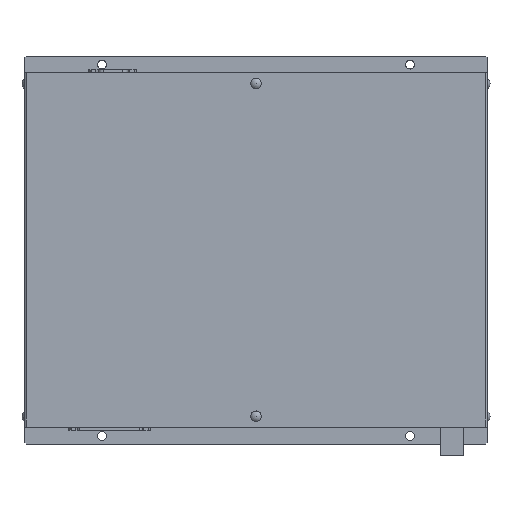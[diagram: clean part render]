
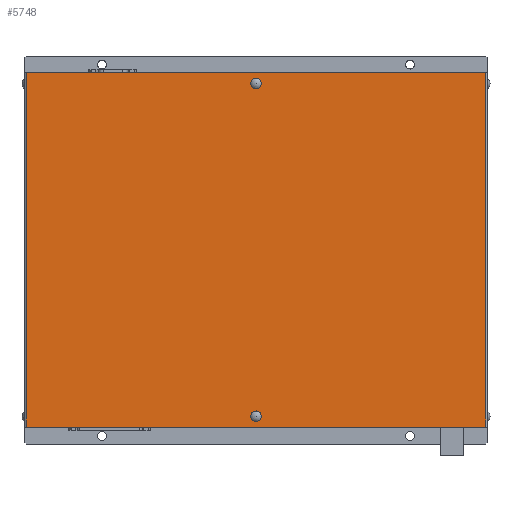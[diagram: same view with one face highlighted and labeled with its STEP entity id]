
A CAD part, top view. The second image highlights one B-rep face of the part: STEP entity #5748.
In plain terms, the highlighted planar face has unit normal (0, 0, 1).
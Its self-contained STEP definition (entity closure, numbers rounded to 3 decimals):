
#476=LINE('',#9172,#1086);
#480=LINE('',#9181,#1090);
#488=LINE('',#9200,#1098);
#496=LINE('',#9215,#1106);
#1086=VECTOR('',#7554,229.99);
#1090=VECTOR('',#7562,297.98);
#1098=VECTOR('',#7576,229.99);
#1106=VECTOR('',#7588,297.98);
#1534=PLANE('',#6240);
#1651=FACE_BOUND('',#2393,.T.);
#1652=FACE_BOUND('',#2394,.T.);
#1966=FACE_OUTER_BOUND('',#2392,.T.);
#2392=EDGE_LOOP('',(#5255,#5256,#5257,#5258));
#2393=EDGE_LOOP('',(#5259));
#2394=EDGE_LOOP('',(#5260));
#2470=CIRCLE('',#5856,3.45);
#2480=CIRCLE('',#5876,3.45);
#2630=VERTEX_POINT('',#7990);
#2640=VERTEX_POINT('',#8020);
#3015=VERTEX_POINT('',#9165);
#3018=VERTEX_POINT('',#9170);
#3021=VERTEX_POINT('',#9180);
#3028=VERTEX_POINT('',#9196);
#3162=EDGE_CURVE('',#2630,#2630,#2470,.T.);
#3172=EDGE_CURVE('',#2640,#2640,#2480,.T.);
#3726=EDGE_CURVE('',#3018,#3015,#476,.T.);
#3730=EDGE_CURVE('',#3015,#3021,#480,.T.);
#3740=EDGE_CURVE('',#3021,#3028,#488,.T.);
#3748=EDGE_CURVE('',#3018,#3028,#496,.T.);
#5255=ORIENTED_EDGE('',*,*,#3726,.F.);
#5256=ORIENTED_EDGE('',*,*,#3748,.T.);
#5257=ORIENTED_EDGE('',*,*,#3740,.F.);
#5258=ORIENTED_EDGE('',*,*,#3730,.F.);
#5259=ORIENTED_EDGE('',*,*,#3162,.T.);
#5260=ORIENTED_EDGE('',*,*,#3172,.T.);
#5748=ADVANCED_FACE('',(#1966,#1651,#1652),#1534,.T.);
#5856=AXIS2_PLACEMENT_3D('',#7991,#6429,#6430);
#5876=AXIS2_PLACEMENT_3D('',#8021,#6469,#6470);
#6240=AXIS2_PLACEMENT_3D('',#9425,#7769,#7770);
#6429=DIRECTION('center_axis',(0.,0.,-1.));
#6430=DIRECTION('ref_axis',(1.,0.,0.));
#6469=DIRECTION('center_axis',(0.,0.,-1.));
#6470=DIRECTION('ref_axis',(1.,0.,0.));
#7554=DIRECTION('',(0.,1.,0.));
#7562=DIRECTION('',(1.,0.,0.));
#7576=DIRECTION('',(0.,-1.,0.));
#7588=DIRECTION('',(1.,0.,0.));
#7769=DIRECTION('center_axis',(0.,0.,1.));
#7770=DIRECTION('ref_axis',(1.,0.,0.));
#7990=CARTESIAN_POINT('',(3.45,-108.01,134.5));
#7991=CARTESIAN_POINT('Origin',(0.,-108.01,134.5));
#8020=CARTESIAN_POINT('',(3.45,107.99,134.5));
#8021=CARTESIAN_POINT('Origin',(0.,107.99,134.5));
#9165=CARTESIAN_POINT('',(-148.99,115.,134.5));
#9170=CARTESIAN_POINT('',(-148.99,-114.99,134.5));
#9172=CARTESIAN_POINT('',(-148.99,-57.5,134.5));
#9180=CARTESIAN_POINT('',(148.99,115.,134.5));
#9181=CARTESIAN_POINT('',(-149.99,115.,134.5));
#9196=CARTESIAN_POINT('',(148.99,-114.99,134.5));
#9200=CARTESIAN_POINT('',(148.99,57.5,134.5));
#9215=CARTESIAN_POINT('',(0.,-114.99,134.5));
#9425=CARTESIAN_POINT('Origin',(0.,0.,
134.5));
